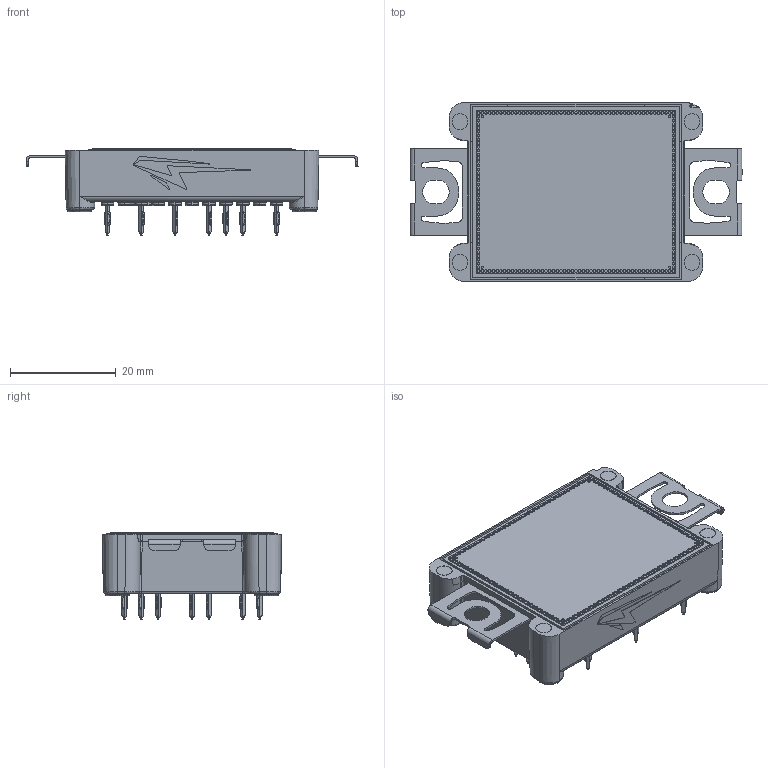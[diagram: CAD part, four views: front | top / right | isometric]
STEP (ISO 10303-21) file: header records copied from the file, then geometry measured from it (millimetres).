
FILE_DESCRIPTION (( 'STEP AP214' ), '1' );
FILE_NAME ('Wolfspeed_CAB0xxM12FM3_Power_Module_External.STEP', '2022-01-17T21:44:46', ( '' ), ( '' ), 'SwSTEP 2.0', 'SolidWorks 2018', '' );
FILE_SCHEMA (( 'AUTOMOTIVE_DESIGN' ));
Length unit declared in the file: millimetre
Products named in the file (1): Wolfspeed_CAB0xxM12FM3_Power_Module_External
Bounding box: 62.8 x 33.8 x 16.4 mm (x, y, z)
Volume: 14879.6 mm3; surface area: 7494.3 mm2
Topology: 1 solids, 1 shells, 2902 faces, 6551 edges, 4095 vertices
Faces by surface type: cylinder 931, plane 801, cone 574, torus 391, bspline 203, sphere 2
Entity records: 119339 total; most frequent: CARTESIAN_POINT 22939, DIRECTION 13925, ORIENTED_EDGE 13092, EDGE_CURVE 6546, AXIS2_PLACEMENT_3D 5724, VERTEX_POINT 4095, EDGE_LOOP 3359, CIRCLE 3024
